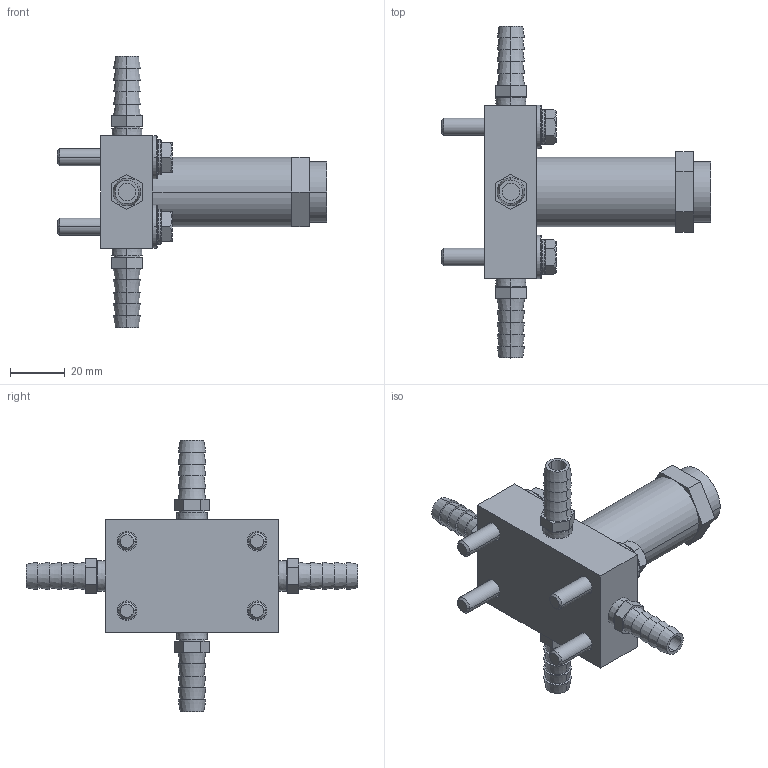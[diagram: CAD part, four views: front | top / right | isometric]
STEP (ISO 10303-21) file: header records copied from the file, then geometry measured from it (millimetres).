
FILE_DESCRIPTION((''),'2;1');
FILE_NAME('XLR2_ASM','2017-08-24T',('jennifer.elliott'),('CenterLine (Windsor) Ltd - Automation Components Division'),'PRO/ENGINEER BY PARAMETRIC TECHNOLOGY CORPORATION, 2015030','PRO/ENGINEER BY PARAMETRIC TECHNOLOGY CORPORATION, 2015030','');
FILE_SCHEMA(('AUTOMOTIVE_DESIGN { 1 0 10303 214 1 1 1 1 }'));
Length unit declared in the file: inch
Products named in the file (18): PRT1605; PRT1606; PRT1607; PRT1608; PRT1609; PRT1610; PRT1611; PRT1612; PRT1613; PRT1614; ASM0024_ASM; PRT1615; PRT1616; PRT1617; PRT1618; PRT1619; TMP_DWG-3DSOLID_102; XLR2_ASM
Assembly tree (17 placements, depth 3):
  XLR2_ASM
    PRT1605
    PRT1606
    PRT1607
    PRT1608
    PRT1609
    PRT1610
    ASM0024_ASM
      PRT1611
      PRT1612
      PRT1613
      PRT1614
    PRT1615
    PRT1616
    PRT1617
    PRT1618
    PRT1619
    TMP_DWG-3DSOLID_102
Bounding box: 98.42 x 121.41 x 99.19 mm (x, y, z)
Volume: 91866.6 mm3; surface area: 32214 mm2
Topology: 16 solids, 16 shells, 294 faces, 670 edges, 440 vertices
Faces by surface type: plane 134, cone 80, cylinder 56, torus 24
Entity records: 9835 total; most frequent: CARTESIAN_POINT 1944, DIRECTION 1556, ORIENTED_EDGE 1340, EDGE_CURVE 670, AXIS2_PLACEMENT_3D 641, VERTEX_POINT 440, EDGE_LOOP 350, CIRCLE 308
